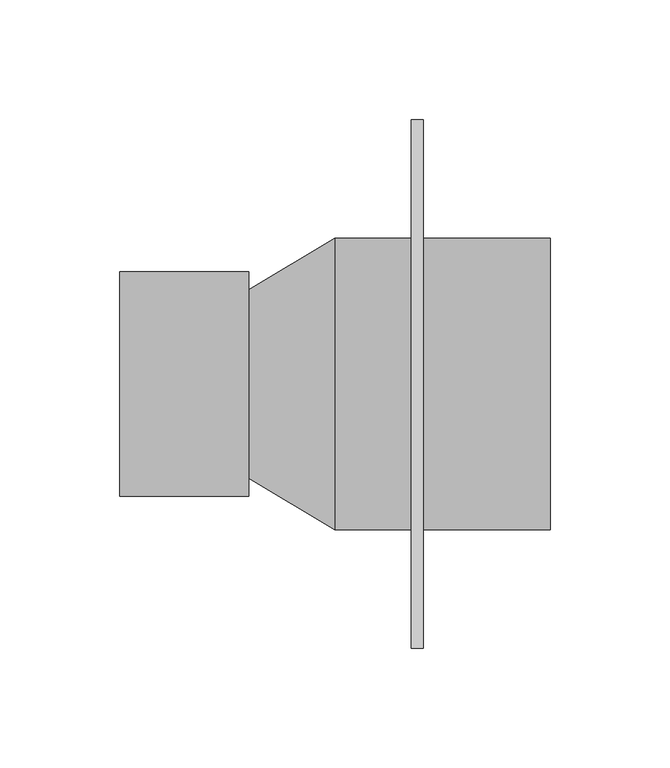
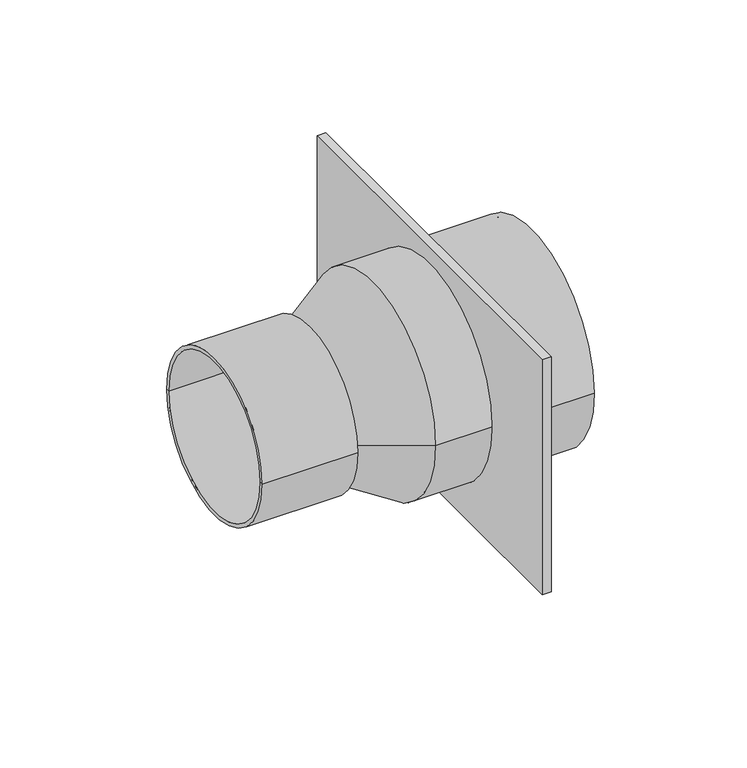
"""IFC4 building model written with IfcOpenShell, lengths in millimetres: duct fitting geometry, NLRS_57_DUF_UN_terminal connection straight_M&G : ø117 - ø125 / ø92."""

from ifc_helpers import new_model, si_unit, point, frame, origin, origin_2d, place, context, project, spatial, polyline, circle_curve, trimmed, segment, composite_curve, outline, extrude, source, transform, mapped, element, save
from ifc_brep_helpers import plane_surface, cylinder_surface, revolved_surface, advanced_brep


def duct_fitting_7ef48b03(model_context):
    return source(origin(), model_context, "Body", "SolidModel", [
        advanced_brep(
        [(54.0, -39.5, 0.0), (54.0, 39.5, 0.0), (90.0, 61.0, 0.0), (90.0, -61.0, 0.0), (180.0, -61.0, 0.0), (180.0, 61.0, 0.0), (180.0, 58.5, 0.0), (180.0, -58.5, 0.0), (54.0, -47.0, 0.0), (54.0, 47.0, 0.0), (0.0, -47.0, 0.0), (0.0, 47.0, 0.0), (0.0, -45.0, 0.0), (0.0, 45.0, 0.0), (52.5, -45.0, 0.0), (52.5, 45.0, 0.0), (52.5, -35.6922575, 0.0), (52.5, 35.6922575, 0.0), (90.6897083, -58.5, 0.0), (90.6897083, 58.5, 0.0)],
        [
            (0, 1, circle_curve(frame((54.0, 0.0, 0.0), z_axis=(1.0, 0.0, 0.0), x_axis=(0.0, 1.0, 0.0)), 39.5)),
            (1, 2),
            (2, 3, circle_curve(frame((90.0, 0.0, 0.0), z_axis=(-1.0, 0.0, 0.0), x_axis=(0.0, 1.0, 0.0)), 61.0)),
            (3, 0),
            (1, 0, circle_curve(frame((54.0, 0.0, 0.0), z_axis=(1.0, 0.0, 0.0), x_axis=(0.0, 1.0, 0.0)), 39.5)),
            (3, 2, circle_curve(frame((90.0, 0.0, 0.0), z_axis=(-1.0, 0.0, 0.0), x_axis=(0.0, 1.0, 0.0)), 61.0)),
            (4, 5, circle_curve(frame((180.0, 0.0, 0.0), z_axis=(1.0, 0.0, 0.0), x_axis=(0.0, 1.0, 0.0)), 61.0)),
            (5, 6),
            (6, 7, circle_curve(frame((180.0, 0.0, 0.0), z_axis=(-1.0, 0.0, 0.0), x_axis=(0.0, 1.0, 0.0)), 58.5)),
            (7, 4),
            (5, 4, circle_curve(frame((180.0, 0.0, 0.0), z_axis=(1.0, 0.0, 0.0), x_axis=(0.0, 1.0, 0.0)), 61.0)),
            (7, 6, circle_curve(frame((180.0, 0.0, 0.0), z_axis=(-1.0, 0.0, 0.0), x_axis=(0.0, 1.0, 0.0)), 58.5)),
            (2, 5),
            (4, 3),
            (8, 9, circle_curve(frame((54.0, 0.0, 0.0), z_axis=(1.0, 0.0, 0.0), x_axis=(0.0, 1.0, 0.0)), 47.0)),
            (9, 1),
            (0, 8),
            (9, 8, circle_curve(frame((54.0, 0.0, 0.0), z_axis=(1.0, 0.0, 0.0), x_axis=(0.0, 1.0, 0.0)), 47.0)),
            (10, 11, circle_curve(frame((0.0, 0.0, 0.0), z_axis=(1.0, 0.0, 0.0), x_axis=(0.0, 1.0, 0.0)), 47.0)),
            (11, 9),
            (8, 10),
            (11, 10, circle_curve(frame((0.0, 0.0, 0.0), z_axis=(1.0, 0.0, 0.0), x_axis=(0.0, 1.0, 0.0)), 47.0)),
            (12, 13, circle_curve(frame((0.0, 0.0, 0.0), z_axis=(1.0, 0.0, 0.0), x_axis=(0.0, 1.0, 0.0)), 45.0)),
            (13, 11),
            (10, 12),
            (13, 12, circle_curve(frame((0.0, 0.0, 0.0), z_axis=(1.0, 0.0, 0.0), x_axis=(0.0, 1.0, 0.0)), 45.0)),
            (14, 15, circle_curve(frame((52.5, 0.0, 0.0), z_axis=(1.0, 0.0, 0.0), x_axis=(0.0, 1.0, 0.0)), 45.0)),
            (15, 13),
            (12, 14),
            (15, 14, circle_curve(frame((52.5, 0.0, 0.0), z_axis=(1.0, 0.0, 0.0), x_axis=(0.0, 1.0, 0.0)), 45.0)),
            (16, 17, circle_curve(frame((52.5, 0.0, 0.0), z_axis=(1.0, 0.0, 0.0), x_axis=(0.0, 1.0, 0.0)), 35.6922575)),
            (17, 15),
            (14, 16),
            (17, 16, circle_curve(frame((52.5, 0.0, 0.0), z_axis=(1.0, 0.0, 0.0), x_axis=(0.0, 1.0, 0.0)), 35.6922575)),
            (18, 19, circle_curve(frame((90.6897083, 0.0, 0.0), z_axis=(1.0, 0.0, 0.0), x_axis=(0.0, 1.0, 0.0)), 58.5)),
            (19, 17),
            (16, 18),
            (19, 18, circle_curve(frame((90.6897083, 0.0, 0.0), z_axis=(1.0, 0.0, 0.0), x_axis=(0.0, 1.0, 0.0)), 58.5)),
            (6, 19),
            (18, 7),
        ],
        [
            revolved_surface(polyline([(90.0, 61.0, 0.0), (54.0, 39.5, 0.0)]), (0.0, 0.0, 0.0), (-1.0, 0.0, 0.0)),
            plane_surface(frame((180.0, 0.0, 0.0), z_axis=(1.0, 0.0, 0.0), x_axis=(0.0, 1.0, 0.0))),
            cylinder_surface(frame((0.0, 0.0, 0.0), z_axis=(-1.0, 0.0, 0.0), x_axis=(0.0, 1.0, 0.0)), 61.0),
            plane_surface(frame((54.0, 0.0, 0.0), z_axis=(1.0, 0.0, 0.0), x_axis=(0.0, 1.0, 0.0))),
            cylinder_surface(frame((0.0, 0.0, 0.0), z_axis=(-1.0, 0.0, 0.0), x_axis=(0.0, 1.0, 0.0)), 47.0),
            plane_surface(frame((0.0, 0.0, 0.0), z_axis=(-1.0, 0.0, 0.0), x_axis=(0.0, 1.0, 0.0))),
            revolved_surface(polyline([(0.0, 45.0, 0.0), (52.5, 45.0, 0.0)]), (0.0, 0.0, 0.0), (-1.0, 0.0, 0.0)),
            plane_surface(frame((52.5, 0.0, 0.0), z_axis=(-1.0, 0.0, 0.0), x_axis=(0.0, 1.0, 0.0))),
            revolved_surface(polyline([(52.5, 35.6922575, 0.0), (90.6897083, 58.5, 0.0)]), (0.0, 0.0, 0.0), (-1.0, 0.0, 0.0)),
            revolved_surface(polyline([(90.6897083, 58.5, 0.0), (180.0, 58.5, 0.0)]), (0.0, 0.0, 0.0), (-1.0, 0.0, 0.0)),
        ],
        [
            (0, [[1, 2, 3, 4]]),
            (0, [[5, -4, 6, -2]]),
            (1, [[7, 8, 9, 10]]),
            (1, [[11, -10, 12, -8]]),
            (2, [[-3, 13, -7, 14]]),
            (2, [[-6, -14, -11, -13]]),
            (3, [[15, 16, -1, 17]]),
            (3, [[18, -17, -5, -16]]),
            (4, [[19, 20, -15, 21]]),
            (4, [[22, -21, -18, -20]]),
            (5, [[23, 24, -19, 25]]),
            (5, [[26, -25, -22, -24]]),
            (6, [[27, 28, -23, 29]]),
            (6, [[30, -29, -26, -28]]),
            (7, [[31, 32, -27, 33]]),
            (7, [[34, -33, -30, -32]]),
            (8, [[35, 36, -31, 37]]),
            (8, [[38, -37, -34, -36]]),
            (9, [[-9, 39, -35, 40]]),
            (9, [[-12, -40, -38, -39]]),
        ],
    ),
        extrude(outline(polyline([(-110.5, 70.5), (110.5, 70.5), (110.5, -70.5), (-110.5, -70.5), (-110.5, 70.5)]), holes=[composite_curve([segment(trimmed(circle_curve(origin_2d(), 61.0), [point((-61.0, 0.0))], [point((61.0, 0.0))], True, "CARTESIAN"), True, "CONTINUOUS"), segment(trimmed(circle_curve(origin_2d(), 61.0), [point((61.0, 0.0))], [point((-61.0, 0.0))], True, "CARTESIAN"), True, "CONTINUOUS")], self_intersect=False)]), frame((121.938202, 0.0, 0.0), z_axis=(1.0, 0.0, 0.0), x_axis=(0.0, 1.0, 0.0)), (0.0, 0.0, 1.0), 5.0),
    ])


if __name__ == "__main__":
    model = new_model("IFC4")
    model_context = context("Model", 3, world=origin())
    ifc_project = project(units=[si_unit("LENGTHUNIT", "METRE", prefix="MILLI")], contexts=[model_context])
    site = spatial("IfcSite", under=ifc_project)
    building = spatial("IfcBuilding", under=site)
    placement = place(None, origin())
    duct_fitting_shape = duct_fitting_7ef48b03(model_context)
    element("IfcDuctFitting", 1, ObjectType="NLRS_57_DUF_UN_terminal connection straight_M&G : ø117 - ø125 / ø92", at=placement, inside=building, context=model_context, shape_type="MappedRepresentation", body=[
        mapped(duct_fitting_shape, transform((0.0, 0.0, 0.0), x_axis=(1.0, 0.0, 0.0), y_axis=(0.0, 1.0, 0.0), z_axis=(0.0, 0.0, 1.0))),
    ])
    save(model, "model.ifc")
